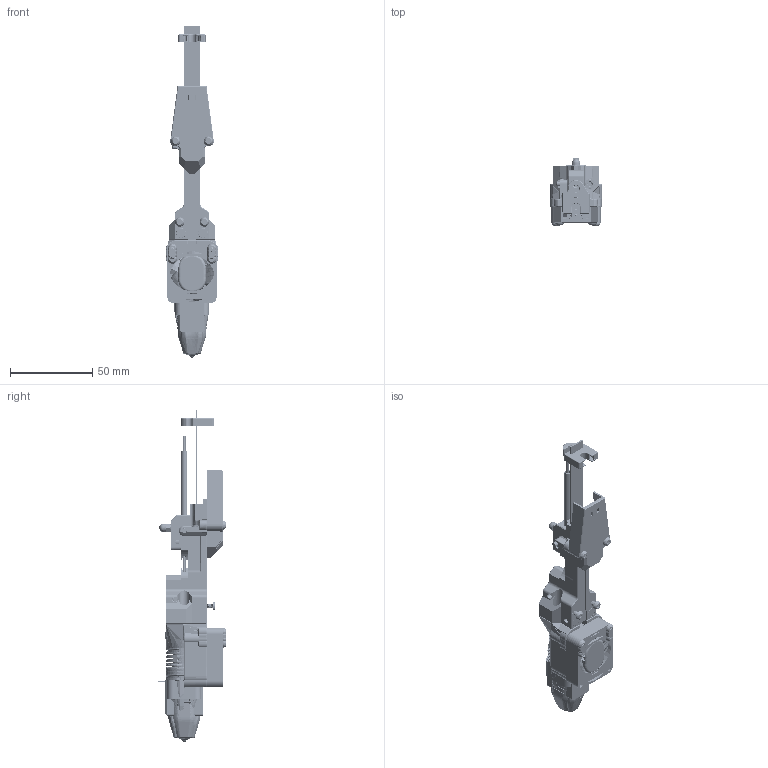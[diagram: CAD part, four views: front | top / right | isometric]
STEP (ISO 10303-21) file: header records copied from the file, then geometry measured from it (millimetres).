
FILE_DESCRIPTION(/* description */ (''),/* implementation_level */ '2;1');
FILE_NAME(/* name */ 'Lineux Hotswap Tool v28.step',/* time_stamp */ '2026-11-17T20:06:47+07:00',/* author */ (''),/* organization */ (''),/* preprocessor_version */ 'ST-DEVELOPER v20.2',/* originating_system */ 'Autodesk Translation Framework v15.17.0.0',/* authorisation */ '');
FILE_SCHEMA (('AUTOMOTIVE_DESIGN { 1 0 10303 214 3 1 1 }'));
Products named in the file (184): Lineux Hotswap Tool; Hotend Mount; V6chp Mount; m3x5x4mm heat insert (11); m3x5x4mm heat insert (10); m3 x 15mm bhcs (5); m3 x 15mm bhcs (4); m3x5x4mm heat insert; m3x5x4mm heat insert (2); ptfe 40mm; 3010 Fan; m2.5 x 6mm shcs (4); m2.5 x 6mm shcs (5); m2.5 x 6mm shcs (7); m2.5 x 6mm shcs (6); v6chp_shroud_mount; v6chp_mount; Chc Pro Mount; m3x5x4mm heat insert (27); m3x5x4mm heat insert (29); m3 x 15mm bhcs (7); m3x5x4mm heat insert (26); ptfe 38mm; m3x5x4mm heat insert (28); m3 x 15mm bhcs (6); 3010 Fan (1); m2.5 x 6mm shcs; m2.5 x 6mm shcs (2); m2.5 x 6mm shcs (3); m2.5 x 6mm shcs (1); chcpro_shroud_mount; chcpro_mount; Tz V6 3.0 Mount; ptfe 42mm; m3x5x4mm heat insert (31); m3x5x4mm heat insert (32); m3x5x4mm heat insert (33); m3 x 15mm bhcs (8); m3x5x4mm heat insert (30); m3 x 15mm bhcs (9)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
Assembly tree (185 placements, depth 5):
  Lineux Hotswap Tool
    Hotend Mount
      V6chp Mount
        m3x5x4mm heat insert (11)
        m3x5x4mm heat insert (10)
        m3 x 15mm bhcs (5)
        m3 x 15mm bhcs (4)
        m3x5x4mm heat insert
        m3x5x4mm heat insert (2)
        ptfe 40mm
        3010 Fan
        m2.5 x 6mm shcs (4)
        m2.5 x 6mm shcs (5)
        m2.5 x 6mm shcs (7)
        m2.5 x 6mm shcs (6)
        v6chp_shroud_mount
        v6chp_mount
      Chc Pro Mount
        m3x5x4mm heat insert (27)
        m3x5x4mm heat insert (29)
        m3 x 15mm bhcs (7)
        m3x5x4mm heat insert (26)
        ptfe 38mm
        m3x5x4mm heat insert (28)
        m3 x 15mm bhcs (6)
        3010 Fan (1)
        m2.5 x 6mm shcs
        m2.5 x 6mm shcs (2)
        m2.5 x 6mm shcs (3)
        m2.5 x 6mm shcs (1)
        chcpro_shroud_mount
        chcpro_mount
      Tz V6 3.0 Mount
        ptfe 42mm
        m3x5x4mm heat insert (31)
        m3x5x4mm heat insert (32)
        m3x5x4mm heat insert (33)
        m3 x 15mm bhcs (8)
        m3x5x4mm heat insert (30)
        m3 x 15mm bhcs (9)
        3010 Fan (2)
        m2.5 x 8mm shcs (3)
        m2.5 x 8mm shcs (1)
        m2.5 x 8mm shcs
        m2.5 x 8mm shcs (2)
        tzv63.0_shroud_mount
        tzv63.0_mount
      E3D Revo Voron Mount
        m3 x 15mm bhcs (11)
        m3x5x4mm heat insert (35)
        m3x5x4mm heat insert (36)
        m3x5x4mm heat insert (37)
        m3 x 15mm bhcs (10)
        m3x5x4mm heat insert (34)
        ptfe 44mm
        3010 Fan (3)
        m3 x 15mm shcs
        m3 x 15mm shcs (1)
        revo_voron_shroud_mount
        m3 x 10mm shcs (3)
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Bounding box: 31.5 x 41.55 x 201.9 mm (x, y, z)
Volume: 216508.6 mm3; surface area: 223421.1 mm2
Topology: 188 solids, 193 shells, 16882 faces, 43936 edges, 27715 vertices
Faces by surface type: plane 6625, cylinder 5285, bspline 3782, cone 746, torus 315, sphere 129
Full cylindrical faces by diameter (mm): 0.231 x4, 0.4 x6, 0.71 x1, 1.05 x16, 1.145 x32, 1.172 x1, 1.221 x30, 1.25 x6, 1.3 x1, 1.4 x8, 1.442 x1, 1.454 x28, 1.5 x2, 1.6 x50, 1.75 x2, 1.8 x7, 1.9 x4, 1.916 x232, 1.93 x1, 2 x24, 2.05 x18, 2.075 x48, 2.09 x3, 2.1 x5, 2.3 x2, 2.35 x19, 2.356 x448, 2.4 x4, 2.43 x152, 2.459 x1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
Entity records: 1347396 total; most frequent: CARTESIAN_POINT 966326, ORIENTED_EDGE 87264, DIRECTION 65424, EDGE_CURVE 43632, VERTEX_POINT 27571, AXIS2_PLACEMENT_3D 23662, LINE 18100, VECTOR 18100
